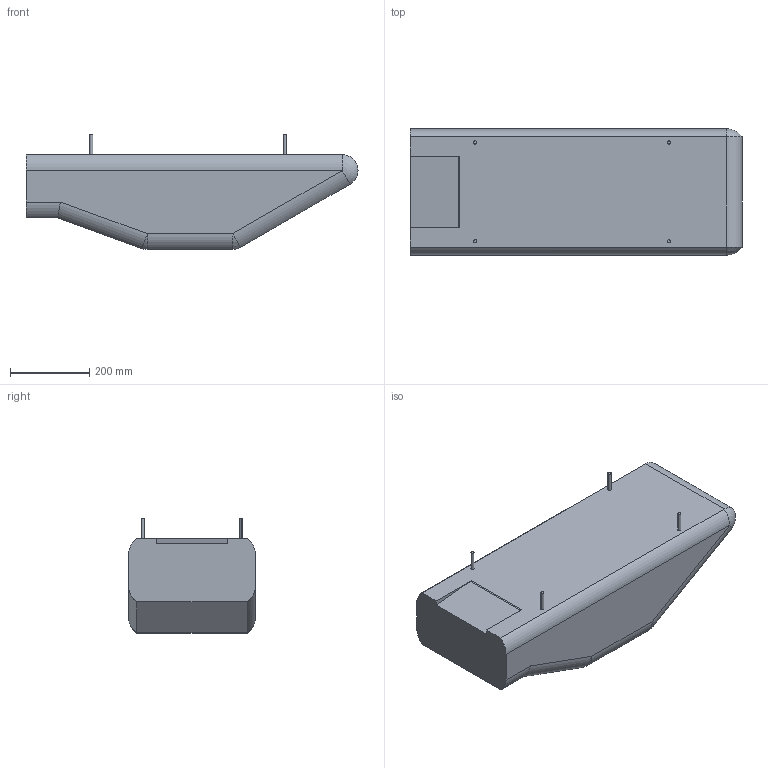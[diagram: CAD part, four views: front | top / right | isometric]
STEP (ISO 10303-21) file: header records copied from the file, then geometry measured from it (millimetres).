
FILE_DESCRIPTION(/* description */ (''),/* implementation_level */ '2;1');
FILE_NAME(/* name */ 'SAE Reference Body - Notchback.step',/* time_stamp */ '2019-05-16T11:28:05+01:00',/* author */ (''),/* organization */ (''),/* preprocessor_version */ 'ST-DEVELOPER v16',/* originating_system */ 'SIEMENS PLM Software NX 10.0',/* authorisation */ '');
FILE_SCHEMA (('AUTOMOTIVE_DESIGN { 1 0 10303 214 3 1 1 1 }'));
Length unit declared in the file: inch
Products named in the file (1): SAE Reference Body - Notchback
Bounding box: 840 x 320 x 290.8 mm (x, y, z)
Volume: 49857418.9 mm3; surface area: 893906.2 mm2
Topology: 1 solids, 1 shells, 42 faces, 94 edges, 52 vertices
Faces by surface type: cylinder 21, plane 15, sphere 6
Full cylindrical faces by diameter (mm): 8 x1
Entity records: 1495 total; most frequent: CARTESIAN_POINT 362, DIRECTION 191, ORIENTED_EDGE 174, EDGE_CURVE 87, AXIS2_PLACEMENT_3D 75, VERTEX_POINT 52, EDGE_LOOP 47, ADVANCED_FACE 42
